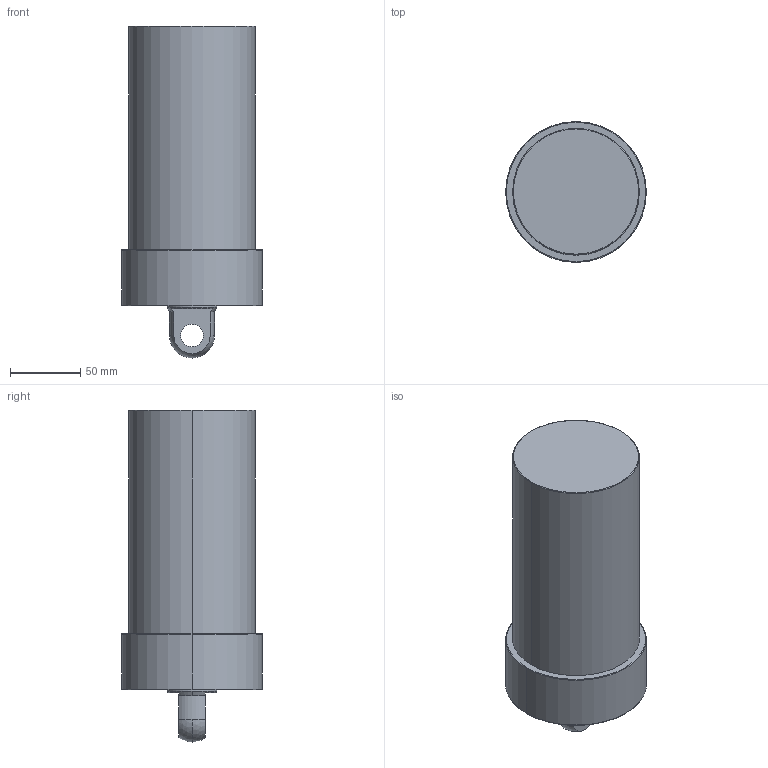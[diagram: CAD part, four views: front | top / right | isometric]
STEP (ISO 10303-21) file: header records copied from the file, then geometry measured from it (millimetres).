
FILE_DESCRIPTION (( 'STEP AP203' ), '1' );
FILE_NAME ('CLLU-090GP-115.STEP', '2020-01-15T01:47:56', ( '' ), ( '' ), 'SwSTEP 2.0', 'SolidWorks 2015', '' );
FILE_SCHEMA (( 'CONFIG_CONTROL_DESIGN' ));
Length unit declared in the file: millimetre
Products named in the file (1): CLLU-090GP-115
Bounding box: 100 x 100 x 236 mm (x, y, z)
Volume: 1334676.5 mm3; surface area: 79411.5 mm2
Topology: 1 solids, 1 shells, 58 faces, 131 edges, 75 vertices
Faces by surface type: cylinder 23, cone 18, plane 9, torus 6, sphere 2
Entity records: 1658 total; most frequent: DIRECTION 311, CARTESIAN_POINT 269, ORIENTED_EDGE 246, AXIS2_PLACEMENT_3D 133, EDGE_CURVE 123, VERTEX_POINT 75, CIRCLE 74, EDGE_LOOP 68
